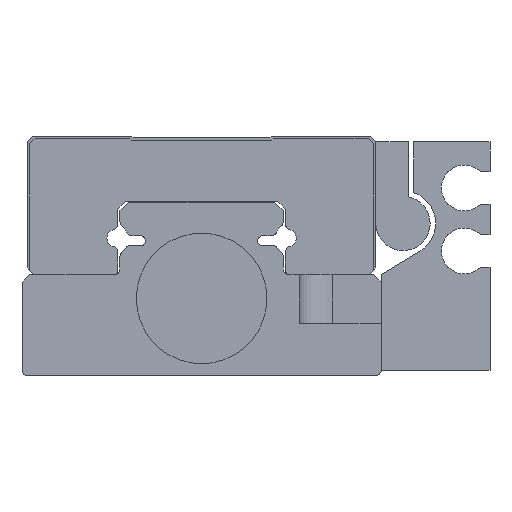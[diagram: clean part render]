
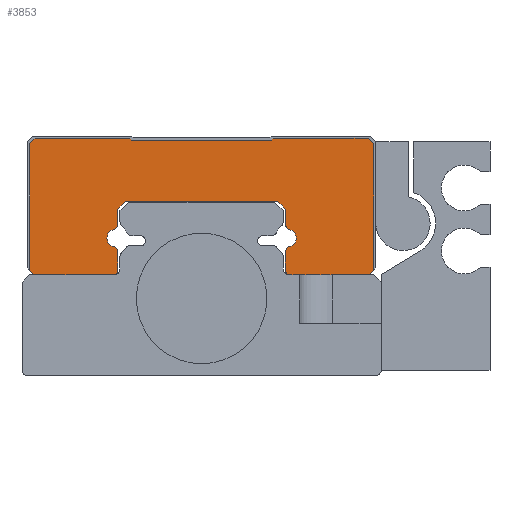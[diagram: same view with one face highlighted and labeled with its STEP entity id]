
A CAD part, front view. The second image highlights one B-rep face of the part: STEP entity #3853.
In plain terms, the highlighted planar face has unit normal (0, -1, 0).
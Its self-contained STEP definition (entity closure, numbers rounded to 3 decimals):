
#233=CIRCLE('',#4265,0.5);
#235=CIRCLE('',#4271,0.5);
#243=CIRCLE('',#4282,0.5);
#244=CIRCLE('',#4283,0.8);
#245=CIRCLE('',#4284,0.5);
#246=CIRCLE('',#4285,0.5);
#247=CIRCLE('',#4286,0.8);
#248=CIRCLE('',#4287,0.5);
#1012=ORIENTED_EDGE('',*,*,#1609,.F.);
#1013=ORIENTED_EDGE('',*,*,#1698,.F.);
#1014=ORIENTED_EDGE('',*,*,#1683,.F.);
#1015=ORIENTED_EDGE('',*,*,#1679,.F.);
#1016=ORIENTED_EDGE('',*,*,#1699,.F.);
#1017=ORIENTED_EDGE('',*,*,#1700,.F.);
#1018=ORIENTED_EDGE('',*,*,#1701,.T.);
#1019=ORIENTED_EDGE('',*,*,#1702,.F.);
#1020=ORIENTED_EDGE('',*,*,#1703,.F.);
#1021=ORIENTED_EDGE('',*,*,#1676,.F.);
#1022=ORIENTED_EDGE('',*,*,#1673,.F.);
#1023=ORIENTED_EDGE('',*,*,#1669,.F.);
#1024=ORIENTED_EDGE('',*,*,#1704,.F.);
#1025=ORIENTED_EDGE('',*,*,#1705,.F.);
#1026=ORIENTED_EDGE('',*,*,#1706,.T.);
#1027=ORIENTED_EDGE('',*,*,#1707,.F.);
#1028=ORIENTED_EDGE('',*,*,#1708,.F.);
#1029=ORIENTED_EDGE('',*,*,#1666,.F.);
#1030=ORIENTED_EDGE('',*,*,#1662,.F.);
#1031=ORIENTED_EDGE('',*,*,#1709,.F.);
#1032=ORIENTED_EDGE('',*,*,#1633,.F.);
#1033=ORIENTED_EDGE('',*,*,#1630,.F.);
#1034=ORIENTED_EDGE('',*,*,#1627,.F.);
#1035=ORIENTED_EDGE('',*,*,#1624,.F.);
#1036=ORIENTED_EDGE('',*,*,#1621,.F.);
#1037=ORIENTED_EDGE('',*,*,#1618,.F.);
#1038=ORIENTED_EDGE('',*,*,#1615,.F.);
#1039=ORIENTED_EDGE('',*,*,#1612,.F.);
#1609=EDGE_CURVE('',#2038,#2036,#2374,.T.);
#1612=EDGE_CURVE('',#2036,#2040,#2377,.T.);
#1615=EDGE_CURVE('',#2040,#2042,#2380,.T.);
#1618=EDGE_CURVE('',#2042,#2044,#2383,.T.);
#1621=EDGE_CURVE('',#2044,#2046,#2386,.T.);
#1624=EDGE_CURVE('',#2046,#2048,#2389,.T.);
#1627=EDGE_CURVE('',#2048,#2050,#2392,.T.);
#1630=EDGE_CURVE('',#2050,#2052,#2395,.T.);
#1633=EDGE_CURVE('',#2052,#2054,#2398,.T.);
#1662=EDGE_CURVE('',#2075,#2076,#2427,.T.);
#1666=EDGE_CURVE('',#2076,#2079,#233,.T.);
#1669=EDGE_CURVE('',#2081,#2082,#2432,.T.);
#1673=EDGE_CURVE('',#2082,#2085,#2436,.T.);
#1676=EDGE_CURVE('',#2085,#2087,#2439,.T.);
#1679=EDGE_CURVE('',#2089,#2090,#235,.T.);
#1683=EDGE_CURVE('',#2090,#2093,#2444,.T.);
#1698=EDGE_CURVE('',#2093,#2038,#2453,.T.);
#1699=EDGE_CURVE('',#2103,#2089,#2454,.T.);
#1700=EDGE_CURVE('',#2104,#2103,#243,.T.);
#1701=EDGE_CURVE('',#2104,#2105,#244,.T.);
#1702=EDGE_CURVE('',#2106,#2105,#245,.T.);
#1703=EDGE_CURVE('',#2087,#2106,#2455,.T.);
#1704=EDGE_CURVE('',#2107,#2081,#2456,.T.);
#1705=EDGE_CURVE('',#2108,#2107,#246,.T.);
#1706=EDGE_CURVE('',#2108,#2109,#247,.T.);
#1707=EDGE_CURVE('',#2110,#2109,#248,.T.);
#1708=EDGE_CURVE('',#2079,#2110,#2457,.T.);
#1709=EDGE_CURVE('',#2054,#2075,#2458,.T.);
#2036=VERTEX_POINT('',#6244);
#2038=VERTEX_POINT('',#6248);
#2040=VERTEX_POINT('',#6253);
#2042=VERTEX_POINT('',#6259);
#2044=VERTEX_POINT('',#6265);
#2046=VERTEX_POINT('',#6271);
#2048=VERTEX_POINT('',#6277);
#2050=VERTEX_POINT('',#6283);
#2052=VERTEX_POINT('',#6289);
#2054=VERTEX_POINT('',#6295);
#2075=VERTEX_POINT('',#6357);
#2076=VERTEX_POINT('',#6358);
#2079=VERTEX_POINT('',#6366);
#2081=VERTEX_POINT('',#6372);
#2082=VERTEX_POINT('',#6373);
#2085=VERTEX_POINT('',#6381);
#2087=VERTEX_POINT('',#6387);
#2089=VERTEX_POINT('',#6393);
#2090=VERTEX_POINT('',#6394);
#2093=VERTEX_POINT('',#6402);
#2103=VERTEX_POINT('',#6430);
#2104=VERTEX_POINT('',#6432);
#2105=VERTEX_POINT('',#6434);
#2106=VERTEX_POINT('',#6436);
#2107=VERTEX_POINT('',#6439);
#2108=VERTEX_POINT('',#6441);
#2109=VERTEX_POINT('',#6443);
#2110=VERTEX_POINT('',#6445);
#2374=LINE('',#6249,#2708);
#2377=LINE('',#6255,#2711);
#2380=LINE('',#6261,#2714);
#2383=LINE('',#6267,#2717);
#2386=LINE('',#6273,#2720);
#2389=LINE('',#6279,#2723);
#2392=LINE('',#6285,#2726);
#2395=LINE('',#6291,#2729);
#2398=LINE('',#6297,#2732);
#2427=LINE('',#6356,#2761);
#2432=LINE('',#6371,#2766);
#2436=LINE('',#6380,#2770);
#2439=LINE('',#6386,#2773);
#2444=LINE('',#6401,#2778);
#2453=LINE('',#6428,#2787);
#2454=LINE('',#6429,#2788);
#2455=LINE('',#6437,#2789);
#2456=LINE('',#6438,#2790);
#2457=LINE('',#6446,#2791);
#2458=LINE('',#6447,#2792);
#2708=VECTOR('',#5108,1000.);
#2711=VECTOR('',#5113,1000.);
#2714=VECTOR('',#5118,1000.);
#2717=VECTOR('',#5123,1000.);
#2720=VECTOR('',#5128,1000.);
#2723=VECTOR('',#5133,1000.);
#2726=VECTOR('',#5138,1000.);
#2729=VECTOR('',#5143,1000.);
#2732=VECTOR('',#5148,1000.);
#2761=VECTOR('',#5197,1000.);
#2766=VECTOR('',#5210,1000.);
#2770=VECTOR('',#5216,1000.);
#2773=VECTOR('',#5221,1000.);
#2778=VECTOR('',#5234,1000.);
#2787=VECTOR('',#5259,1000.);
#2788=VECTOR('',#5260,1000.);
#2789=VECTOR('',#5267,1000.);
#2790=VECTOR('',#5268,1000.);
#2791=VECTOR('',#5275,1000.);
#2792=VECTOR('',#5276,1000.);
#3087=EDGE_LOOP('',(#1012,#1013,#1014,#1015,#1016,#1017,#1018,#1019,#1020,
#1021,#1022,#1023,#1024,#1025,#1026,#1027,#1028,#1029,#1030,#1031,#1032,
#1033,#1034,#1035,#1036,#1037,#1038,#1039));
#3431=FACE_BOUND('',#3087,.T.);
#3645=PLANE('',#4281);
#3853=ADVANCED_FACE('',(#3431),#3645,.F.);
#4265=AXIS2_PLACEMENT_3D('',#6365,#5203,#5204);
#4271=AXIS2_PLACEMENT_3D('',#6392,#5226,#5227);
#4281=AXIS2_PLACEMENT_3D('',#6427,#5257,#5258);
#4282=AXIS2_PLACEMENT_3D('',#6431,#5261,#5262);
#4283=AXIS2_PLACEMENT_3D('',#6433,#5263,#5264);
#4284=AXIS2_PLACEMENT_3D('',#6435,#5265,#5266);
#4285=AXIS2_PLACEMENT_3D('',#6440,#5269,#5270);
#4286=AXIS2_PLACEMENT_3D('',#6442,#5271,#5272);
#4287=AXIS2_PLACEMENT_3D('',#6444,#5273,#5274);
#5108=DIRECTION('',(0.,0.,1.));
#5113=DIRECTION('',(0.707,0.,0.707));
#5118=DIRECTION('',(1.,0.,0.));
#5123=DIRECTION('',(0.707,0.,-0.707));
#5128=DIRECTION('',(1.,0.,0.));
#5133=DIRECTION('',(0.707,0.,0.707));
#5138=DIRECTION('',(1.,0.,0.));
#5143=DIRECTION('',(0.707,0.,-0.707));
#5148=DIRECTION('',(0.,0.,-1.));
#5197=DIRECTION('',(-1.,0.,0.));
#5203=DIRECTION('',(0.,1.,0.));
#5204=DIRECTION('',(1.,0.,0.));
#5210=DIRECTION('',(-0.707,0.,0.707));
#5216=DIRECTION('',(-1.,0.,0.));
#5221=DIRECTION('',(-0.707,0.,-0.707));
#5226=DIRECTION('',(0.,1.,0.));
#5227=DIRECTION('',(1.,0.,0.));
#5234=DIRECTION('',(-1.,0.,0.));
#5257=DIRECTION('',(0.,1.,0.));
#5258=DIRECTION('',(0.,0.,1.));
#5259=DIRECTION('',(-0.707,0.,0.707));
#5260=DIRECTION('',(0.,0.,-1.));
#5261=DIRECTION('',(0.,1.,0.));
#5262=DIRECTION('',(1.,0.,0.));
#5263=DIRECTION('',(0.,1.,0.));
#5264=DIRECTION('',(1.,0.,0.));
#5265=DIRECTION('',(0.,1.,0.));
#5266=DIRECTION('',(1.,0.,0.));
#5267=DIRECTION('',(0.,0.,-1.));
#5268=DIRECTION('',(0.,0.,1.));
#5269=DIRECTION('',(0.,1.,0.));
#5270=DIRECTION('',(1.,0.,0.));
#5271=DIRECTION('',(0.,1.,0.));
#5272=DIRECTION('',(1.,0.,0.));
#5273=DIRECTION('',(0.,1.,0.));
#5274=DIRECTION('',(1.,0.,0.));
#5275=DIRECTION('',(0.,0.,1.));
#5276=DIRECTION('',(-0.707,0.,-0.707));
#6244=CARTESIAN_POINT('',(-15.8,8.5,21.3));
#6248=CARTESIAN_POINT('',(-15.8,8.5,9.7));
#6249=CARTESIAN_POINT('',(-15.8,8.5,9.7));
#6253=CARTESIAN_POINT('',(-15.3,8.5,21.8));
#6255=CARTESIAN_POINT('',(-15.8,8.5,21.3));
#6259=CARTESIAN_POINT('',(-6.6,8.5,21.8));
#6261=CARTESIAN_POINT('',(-15.3,8.5,21.8));
#6265=CARTESIAN_POINT('',(-6.45,8.5,21.65));
#6267=CARTESIAN_POINT('',(-6.6,8.5,21.8));
#6271=CARTESIAN_POINT('',(6.45,8.5,21.65));
#6273=CARTESIAN_POINT('',(-6.45,8.5,21.65));
#6277=CARTESIAN_POINT('',(6.6,8.5,21.8));
#6279=CARTESIAN_POINT('',(6.45,8.5,21.65));
#6283=CARTESIAN_POINT('',(15.3,8.5,21.8));
#6285=CARTESIAN_POINT('',(6.6,8.5,21.8));
#6289=CARTESIAN_POINT('',(15.8,8.5,21.3));
#6291=CARTESIAN_POINT('',(15.3,8.5,21.8));
#6295=CARTESIAN_POINT('',(15.8,8.5,9.7));
#6297=CARTESIAN_POINT('',(15.8,8.5,21.3));
#6356=CARTESIAN_POINT('',(15.3,8.5,9.2));
#6357=CARTESIAN_POINT('',(15.3,8.5,9.2));
#6358=CARTESIAN_POINT('',(8.2,8.5,9.2));
#6365=CARTESIAN_POINT('',(8.2,8.5,9.7));
#6366=CARTESIAN_POINT('',(7.7,8.5,9.7));
#6371=CARTESIAN_POINT('',(7.7,8.5,15.3));
#6372=CARTESIAN_POINT('',(7.7,8.5,15.3));
#6373=CARTESIAN_POINT('',(7.,8.5,16.));
#6380=CARTESIAN_POINT('',(7.,8.5,16.));
#6381=CARTESIAN_POINT('',(-7.,8.5,16.));
#6386=CARTESIAN_POINT('',(-7.,8.5,16.));
#6387=CARTESIAN_POINT('',(-7.7,8.5,15.3));
#6392=CARTESIAN_POINT('',(-8.2,8.5,9.7));
#6393=CARTESIAN_POINT('',(-7.7,8.5,9.7));
#6394=CARTESIAN_POINT('',(-8.2,8.5,9.2));
#6401=CARTESIAN_POINT('',(-8.2,8.5,9.2));
#6402=CARTESIAN_POINT('',(-15.3,8.5,9.2));
#6427=CARTESIAN_POINT('',(8.2,8.5,9.7));
#6428=CARTESIAN_POINT('',(-15.3,8.5,9.2));
#6429=CARTESIAN_POINT('',(-7.7,8.5,11.385));
#6430=CARTESIAN_POINT('',(-7.7,8.5,11.385));
#6431=CARTESIAN_POINT('',(-8.2,8.5,11.385));
#6432=CARTESIAN_POINT('',(-8.085,8.5,11.872));
#6433=CARTESIAN_POINT('',(-7.9,8.5,12.65));
#6434=CARTESIAN_POINT('',(-8.085,8.5,13.428));
#6435=CARTESIAN_POINT('',(-8.2,8.5,13.915));
#6436=CARTESIAN_POINT('',(-7.7,8.5,13.915));
#6437=CARTESIAN_POINT('',(-7.7,8.5,15.3));
#6438=CARTESIAN_POINT('',(7.7,8.5,13.915));
#6439=CARTESIAN_POINT('',(7.7,8.5,13.915));
#6440=CARTESIAN_POINT('',(8.2,8.5,13.915));
#6441=CARTESIAN_POINT('',(8.085,8.5,13.428));
#6442=CARTESIAN_POINT('',(7.9,8.5,12.65));
#6443=CARTESIAN_POINT('',(8.085,8.5,11.872));
#6444=CARTESIAN_POINT('',(8.2,8.5,11.385));
#6445=CARTESIAN_POINT('',(7.7,8.5,11.385));
#6446=CARTESIAN_POINT('',(7.7,8.5,9.7));
#6447=CARTESIAN_POINT('',(15.8,8.5,9.7));
